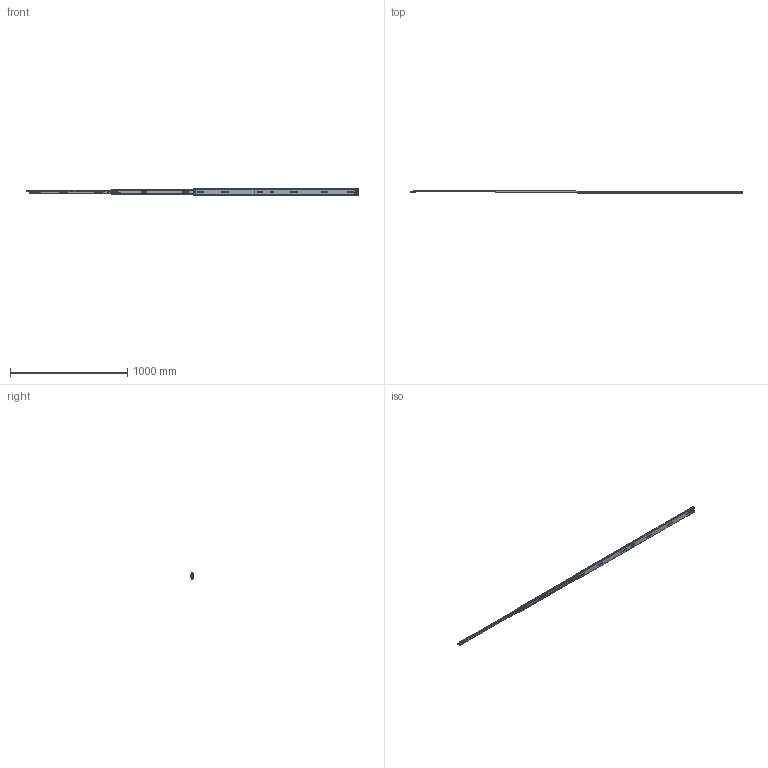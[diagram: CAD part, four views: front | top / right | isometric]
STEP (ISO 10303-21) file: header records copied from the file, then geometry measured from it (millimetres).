
FILE_DESCRIPTION((''),'2;1');
FILE_NAME('DG-57-22-56-YOU_ASM','2023-01-05T',('jishu015'),(''),'PRO/ENGINEER BY PARAMETRIC TECHNOLOGY CORPORATION, 2010280','PRO/ENGINEER BY PARAMETRIC TECHNOLOGY CORPORATION, 2010280','');
FILE_SCHEMA(('CONFIG_CONTROL_DESIGN'));
Products named in the file (22): KP-57-01WEIKE-18_______; 1057WEIJIAO_______; WAIKE______ASM; KP-57-01ZHONGGUI-18_______; ZHONGGUIPEIJIAN-11_____; ZHONGGUISUOKOU-11_____; KP-57-01ZHONGGUI-18________ASM; 1057XIAOZHUJIA_______; 1057-5-6GANZHU_______; 1057XIAOZHUJIA-14GE________ASM; KP-57-01NEIGUI-18_______; PJ-57-08_____; DIAOPIAN-11_____; 50XINSUOKOU-1_____; TANHUANG_____; 1053-3SBANJI122___; JIAO11___; KP-57-01NEIGUI-18________ASM; 1053ZHUTIAO-175___________; 53-5-6GANZHU___________; 1053ZHUTIAO-175MM______ASM; DG-57-22-56-YOU_ASM
Assembly tree (150 placements, depth 3):
  DG-57-22-56-YOU_ASM
    WAIKE______ASM
      KP-57-01WEIKE-18_______
      1057WEIJIAO_______
    KP-57-01ZHONGGUI-18________ASM
      KP-57-01ZHONGGUI-18_______
      ZHONGGUIPEIJIAN-11_____
      ZHONGGUISUOKOU-11_____
    1057XIAOZHUJIA-14GE________ASM
      1057XIAOZHUJIA_______
      1057-5-6GANZHU_______  x104
    KP-57-01NEIGUI-18________ASM
      KP-57-01NEIGUI-18_______
      PJ-57-08_____
      DIAOPIAN-11_____
      50XINSUOKOU-1_____
      TANHUANG_____
      1053-3SBANJI122___
      JIAO11___
    1053ZHUTIAO-175MM______ASM  x2
      1053ZHUTIAO-175___________
      53-5-6GANZHU___________
Bounding box: 2826.92 x 19.05 x 57.69 mm (x, y, z)
Volume: 619163 mm3; surface area: 677161.5 mm2
Topology: 173 solids, 173 shells, 3805 faces, 11063 edges, 6851 vertices
Faces by surface type: cylinder 1692, plane 1477, sphere 323, bspline 165, cone 102, torus 23, extrusion 23
Entity records: 120118 total; most frequent: CARTESIAN_POINT 29193, ORIENTED_EDGE 19258, DIRECTION 18777, EDGE_CURVE 9629, AXIS2_PLACEMENT_3D 6495, VERTEX_POINT 6215, VECTOR 5787, LINE 5764
